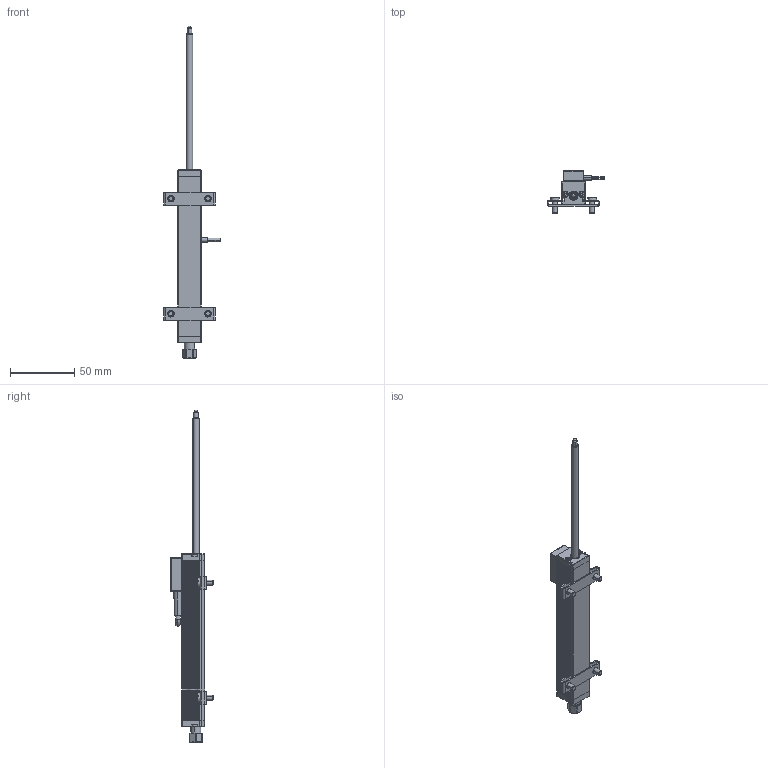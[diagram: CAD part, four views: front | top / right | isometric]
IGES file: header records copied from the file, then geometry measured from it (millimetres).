
Start section: SolidWorks IGES file using analytic representation for surfaces
Global section: file name: E:\Salzinger\I-net_3D\T-Serie_Essentials\T_TS_TR_TRS_-_SLDPRTs\TR_075.IGS; native system: SolidWorks 2008; preprocessor: SolidWorks 2008; author: salzinger; date: 081105.132125; units: millimetre
Bounding box: 44.13 x 33.19 x 258.4 mm (x, y, z)
Surface area: 27190 mm2 (no closed solid volume)
Topology: 0 solids, 0 shells, 941 faces, 9264 edges, 9250 vertices
Faces by surface type: revolution 566, bspline 375
